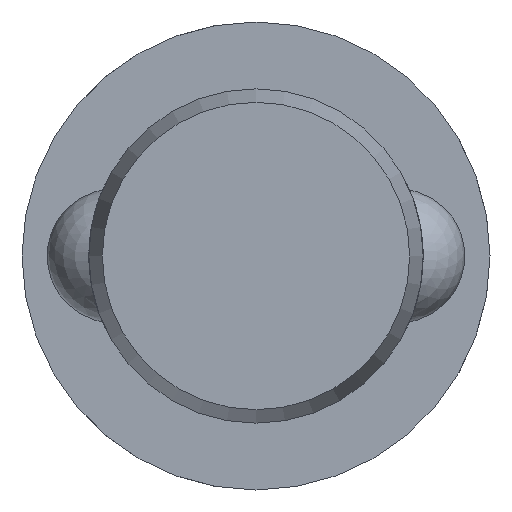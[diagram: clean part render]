
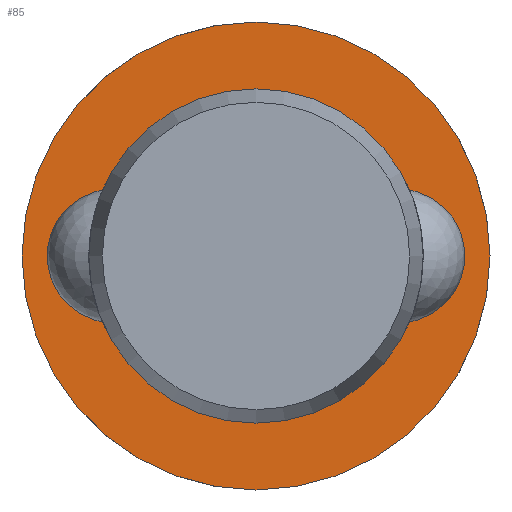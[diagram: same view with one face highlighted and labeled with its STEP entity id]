
A CAD part, left-side view. The second image highlights one B-rep face of the part: STEP entity #85.
In plain terms, the highlighted planar face has unit normal (-1, 0, 0).
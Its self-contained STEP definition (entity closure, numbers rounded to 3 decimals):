
#85 = ADVANCED_FACE( '', ( #131, #132 ), #133, .F. );
#131 = FACE_OUTER_BOUND( '', #204, .T. );
#132 = FACE_BOUND( '', #205, .T. );
#133 = PLANE( '', #206 );
#204 = EDGE_LOOP( '', ( #322 ) );
#205 = EDGE_LOOP( '', ( #323 ) );
#206 = AXIS2_PLACEMENT_3D( '', #324, #325, #326 );
#322 = ORIENTED_EDGE( '', *, *, #470, .F. );
#323 = ORIENTED_EDGE( '', *, *, #467, .T. );
#324 = CARTESIAN_POINT( '', ( 150.5, 10., 0. ) );
#325 = DIRECTION( '', ( 1., 0., 0. ) );
#326 = DIRECTION( '', ( 0., 0., -1. ) );
#467 = EDGE_CURVE( '', #541, #541, #542, .T. );
#470 = EDGE_CURVE( '', #547, #547, #548, .T. );
#541 = VERTEX_POINT( '', #777 );
#542 = CIRCLE( '', #778, 10. );
#547 = VERTEX_POINT( '', #909 );
#548 = CIRCLE( '', #910, 14. );
#777 = CARTESIAN_POINT( '', ( 150.5, 0., -10. ) );
#778 = AXIS2_PLACEMENT_3D( '', #989, #990, #991 );
#909 = CARTESIAN_POINT( '', ( 150.5, 0., -14. ) );
#910 = AXIS2_PLACEMENT_3D( '', #992, #993, #994 );
#989 = CARTESIAN_POINT( '', ( 150.5, 0., 0. ) );
#990 = DIRECTION( '', ( 1., 0., 0. ) );
#991 = DIRECTION( '', ( 0., 0., -1. ) );
#992 = CARTESIAN_POINT( '', ( 150.5, 0., 0. ) );
#993 = DIRECTION( '', ( 1., 0., 0. ) );
#994 = DIRECTION( '', ( 0., 0., -1. ) );
